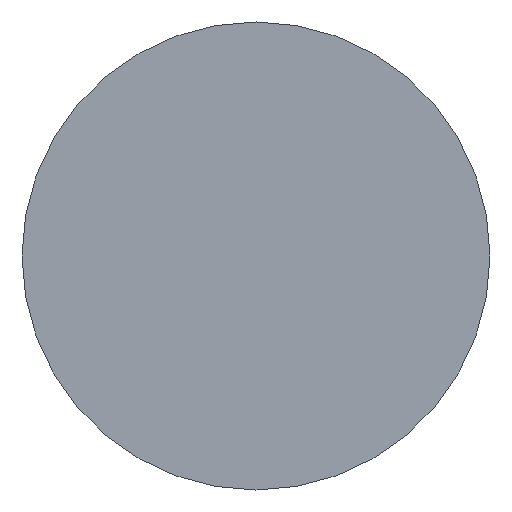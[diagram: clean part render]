
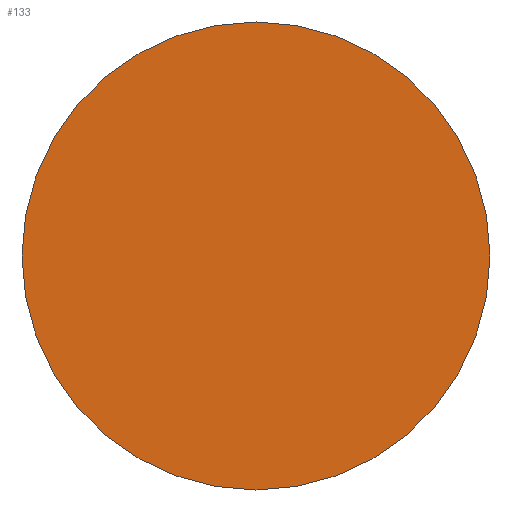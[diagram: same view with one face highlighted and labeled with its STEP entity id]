
A CAD part, left-side view. The second image highlights one B-rep face of the part: STEP entity #133.
In plain terms, the highlighted planar face has unit normal (-1, 0, 0).
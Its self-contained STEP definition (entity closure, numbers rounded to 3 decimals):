
#26 = DIRECTION ( 'NONE',  ( 0., 0., 1. ) ) ;
#27 = DIRECTION ( 'NONE',  ( -1., 0., 0. ) ) ;
#30 = CARTESIAN_POINT ( 'NONE',  ( -224.5, 0., 0. ) ) ;
#39 = DIRECTION ( 'NONE',  ( 0., 0., 1. ) ) ;
#40 = DIRECTION ( 'NONE',  ( -1., 0., 0. ) ) ;
#42 = PLANE ( 'NONE',  #75 ) ;
#43 = CARTESIAN_POINT ( 'NONE',  ( -224.5, 0., 0. ) ) ;
#46 = DIRECTION ( 'NONE',  ( 0., 0., 1. ) ) ;
#47 = DIRECTION ( 'NONE',  ( -1., 0., 0. ) ) ;
#49 = CARTESIAN_POINT ( 'NONE',  ( -224.5, 0., 0. ) ) ;
#62 = VERTEX_POINT ( 'NONE', #65 ) ;
#63 = VERTEX_POINT ( 'NONE', #66 ) ;
#65 = CARTESIAN_POINT ( 'NONE',  ( -224.5, 0., -5.5 ) ) ;
#66 = CARTESIAN_POINT ( 'NONE',  ( -224.5, 0., 5.5 ) ) ;
#72 = AXIS2_PLACEMENT_3D ( 'NONE', #49, #47, #46 ) ;
#73 = AXIS2_PLACEMENT_3D ( 'NONE', #30, #27, #26 ) ;
#75 = AXIS2_PLACEMENT_3D ( 'NONE', #43, #40, #39 ) ;
#86 = EDGE_LOOP ( 'NONE', ( #98, #108 ) ) ;
#98 = ORIENTED_EDGE ( 'NONE', *, *, #138, .T. ) ;
#100 = CIRCLE ( 'NONE', #73, 5.5 ) ;
#108 = ORIENTED_EDGE ( 'NONE', *, *, #129, .T. ) ;
#116 = FACE_OUTER_BOUND ( 'NONE', #86, .T. ) ;
#119 = CIRCLE ( 'NONE', #72, 5.5 ) ;
#129 = EDGE_CURVE ( 'NONE', #62, #63, #119, .T. ) ;
#133 = ADVANCED_FACE ( 'NONE', ( #116 ), #42, .T. ) ;
#138 = EDGE_CURVE ( 'NONE', #63, #62, #100, .T. ) ;
